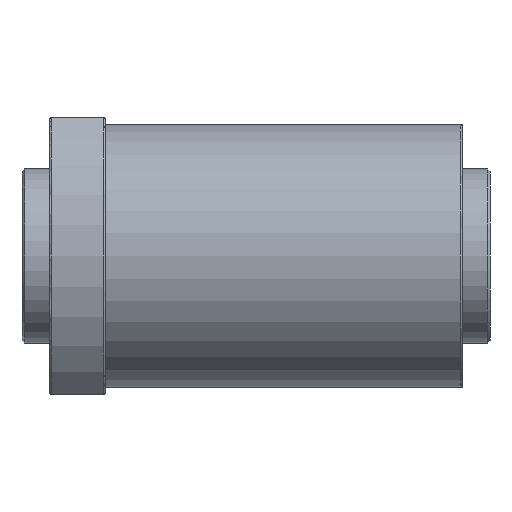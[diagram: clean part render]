
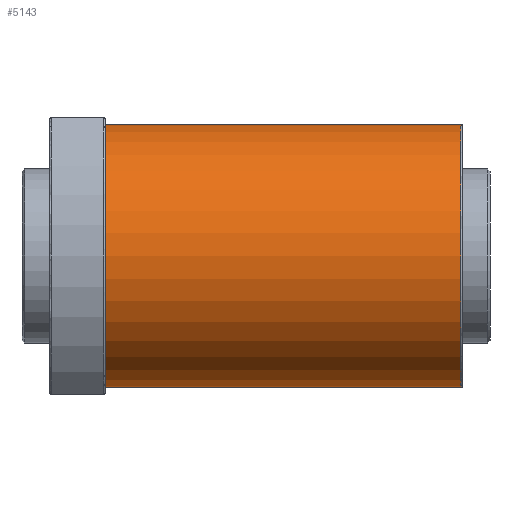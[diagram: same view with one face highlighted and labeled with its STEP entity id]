
A CAD part, front view. The second image highlights one B-rep face of the part: STEP entity #5143.
In plain terms, the highlighted cylindrical face has radius 47.5 mm (diameter 95 mm), a partial arc.
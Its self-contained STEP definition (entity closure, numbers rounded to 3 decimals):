
#147 = ORIENTED_EDGE ( 'NONE', *, *, #6350, .T. ) ;
#438 = AXIS2_PLACEMENT_3D ( 'NONE', #5003, #7524, #1311 ) ;
#567 = DIRECTION ( 'NONE',  ( -1., 0., 0. ) ) ;
#576 = VERTEX_POINT ( 'NONE', #1941 ) ;
#811 = DIRECTION ( 'NONE',  ( -1., 0., 0. ) ) ;
#851 = ORIENTED_EDGE ( 'NONE', *, *, #1091, .F. ) ;
#929 = DIRECTION ( 'NONE',  ( 1., 0., 0. ) ) ;
#996 = ORIENTED_EDGE ( 'NONE', *, *, #1283, .T. ) ;
#1091 = EDGE_CURVE ( 'NONE', #5767, #7916, #2758, .T. ) ;
#1103 = CARTESIAN_POINT ( 'NONE',  ( 20., 0., -47.5 ) ) ;
#1283 = EDGE_CURVE ( 'NONE', #5767, #2029, #6780, .T. ) ;
#1311 = DIRECTION ( 'NONE',  ( 0., 0., 1. ) ) ;
#1407 = CARTESIAN_POINT ( 'NONE',  ( 148.5, 0., 47.5 ) ) ;
#1743 = FACE_OUTER_BOUND ( 'NONE', #7446, .T. ) ;
#1941 = CARTESIAN_POINT ( 'NONE',  ( 20., 0., 47.5 ) ) ;
#2029 = VERTEX_POINT ( 'NONE', #1407 ) ;
#2620 = CARTESIAN_POINT ( 'NONE',  ( 148.5, 0., -47.5 ) ) ;
#2629 = CARTESIAN_POINT ( 'NONE',  ( 149., 0., 47.5 ) ) ;
#2758 = LINE ( 'NONE', #6607, #4673 ) ;
#2786 = CARTESIAN_POINT ( 'NONE',  ( 20., 0., 0. ) ) ;
#4252 = CYLINDRICAL_SURFACE ( 'NONE', #4474, 47.5 ) ;
#4474 = AXIS2_PLACEMENT_3D ( 'NONE', #7431, #567, #5119 ) ;
#4614 = VECTOR ( 'NONE', #811, 1000. ) ;
#4673 = VECTOR ( 'NONE', #6009, 1000. ) ;
#5003 = CARTESIAN_POINT ( 'NONE',  ( 148.5, 0., 0. ) ) ;
#5119 = DIRECTION ( 'NONE',  ( 0., 0., 1. ) ) ;
#5143 = ADVANCED_FACE ( 'NONE', ( #1743 ), #4252, .T. ) ;
#5767 = VERTEX_POINT ( 'NONE', #2620 ) ;
#6009 = DIRECTION ( 'NONE',  ( -1., 0., 0. ) ) ;
#6092 = EDGE_CURVE ( 'NONE', #576, #7916, #7977, .T. ) ;
#6159 = LINE ( 'NONE', #2629, #4614 ) ;
#6350 = EDGE_CURVE ( 'NONE', #2029, #576, #6159, .T. ) ;
#6474 = DIRECTION ( 'NONE',  ( 0., 0., 1. ) ) ;
#6607 = CARTESIAN_POINT ( 'NONE',  ( 149., 0., -47.5 ) ) ;
#6780 = CIRCLE ( 'NONE', #438, 47.5 ) ;
#7158 = ORIENTED_EDGE ( 'NONE', *, *, #6092, .T. ) ;
#7431 = CARTESIAN_POINT ( 'NONE',  ( 149., 0., 0. ) ) ;
#7446 = EDGE_LOOP ( 'NONE', ( #851, #996, #147, #7158 ) ) ;
#7470 = AXIS2_PLACEMENT_3D ( 'NONE', #2786, #929, #6474 ) ;
#7524 = DIRECTION ( 'NONE',  ( -1., 0., 0. ) ) ;
#7916 = VERTEX_POINT ( 'NONE', #1103 ) ;
#7977 = CIRCLE ( 'NONE', #7470, 47.5 ) ;
